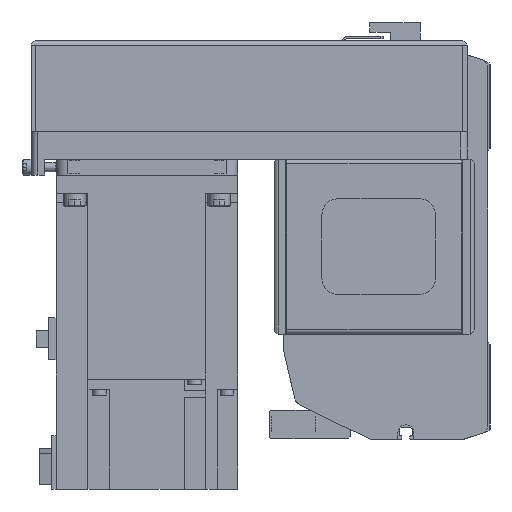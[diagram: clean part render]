
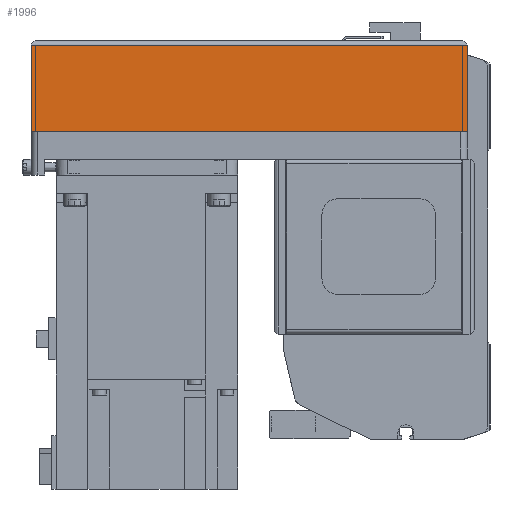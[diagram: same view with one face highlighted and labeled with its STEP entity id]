
A CAD part, left-side view. The second image highlights one B-rep face of the part: STEP entity #1996.
In plain terms, the highlighted planar face has unit normal (-1, 0, 0) as drawn and (0, 1, 0) by its records, which use the part's own axes.
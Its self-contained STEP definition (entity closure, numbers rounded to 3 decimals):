
#1996 = ADVANCED_FACE( '', ( #4678 ), #4679, .T. );
#4678 = FACE_OUTER_BOUND( '', #8172, .T. );
#4679 = PLANE( '', #8173 );
#8172 = EDGE_LOOP( '', ( #13802, #13803, #13804, #13805 ) );
#8173 = AXIS2_PLACEMENT_3D( '', #13806, #13807, #13808 );
#13802 = ORIENTED_EDGE( '', *, *, #21661, .F. );
#13803 = ORIENTED_EDGE( '', *, *, #21662, .F. );
#13804 = ORIENTED_EDGE( '', *, *, #21663, .T. );
#13805 = ORIENTED_EDGE( '', *, *, #21664, .T. );
#13806 = CARTESIAN_POINT( '', ( -192., 40., -50. ) );
#13807 = DIRECTION( '', ( 0., 1., 0. ) );
#13808 = DIRECTION( '', ( 0., 0., 1. ) );
#21661 = EDGE_CURVE( '', #26583, #26339, #26584, .T. );
#21662 = EDGE_CURVE( '', #24937, #26583, #26585, .T. );
#21663 = EDGE_CURVE( '', #24937, #26586, #26587, .T. );
#21664 = EDGE_CURVE( '', #26586, #26339, #26588, .T. );
#24937 = VERTEX_POINT( '', #31113 );
#26339 = VERTEX_POINT( '', #33202 );
#26583 = VERTEX_POINT( '', #33527 );
#26584 = LINE( '', #33528, #33529 );
#26585 = LINE( '', #33530, #33531 );
#26586 = VERTEX_POINT( '', #33532 );
#26587 = LINE( '', #33533, #33534 );
#26588 = LINE( '', #33535, #33536 );
#31113 = CARTESIAN_POINT( '', ( -192., 40., -50. ) );
#33202 = CARTESIAN_POINT( '', ( 0., 40., -12.1 ) );
#33527 = CARTESIAN_POINT( '', ( 0., 40., -50. ) );
#33528 = CARTESIAN_POINT( '', ( 0., 40., -50. ) );
#33529 = VECTOR( '', #39486, 1000. );
#33530 = CARTESIAN_POINT( '', ( -192., 40., -50. ) );
#33531 = VECTOR( '', #39487, 1000. );
#33532 = CARTESIAN_POINT( '', ( -192., 40., -12.1 ) );
#33533 = CARTESIAN_POINT( '', ( -192., 40., -50. ) );
#33534 = VECTOR( '', #39488, 1000. );
#33535 = CARTESIAN_POINT( '', ( -192., 40., -12.1 ) );
#33536 = VECTOR( '', #39489, 1000. );
#39486 = DIRECTION( '', ( 0., 0., 1. ) );
#39487 = DIRECTION( '', ( 1., 0., 0. ) );
#39488 = DIRECTION( '', ( 0., 0., 1. ) );
#39489 = DIRECTION( '', ( 1., 0., 0. ) );
